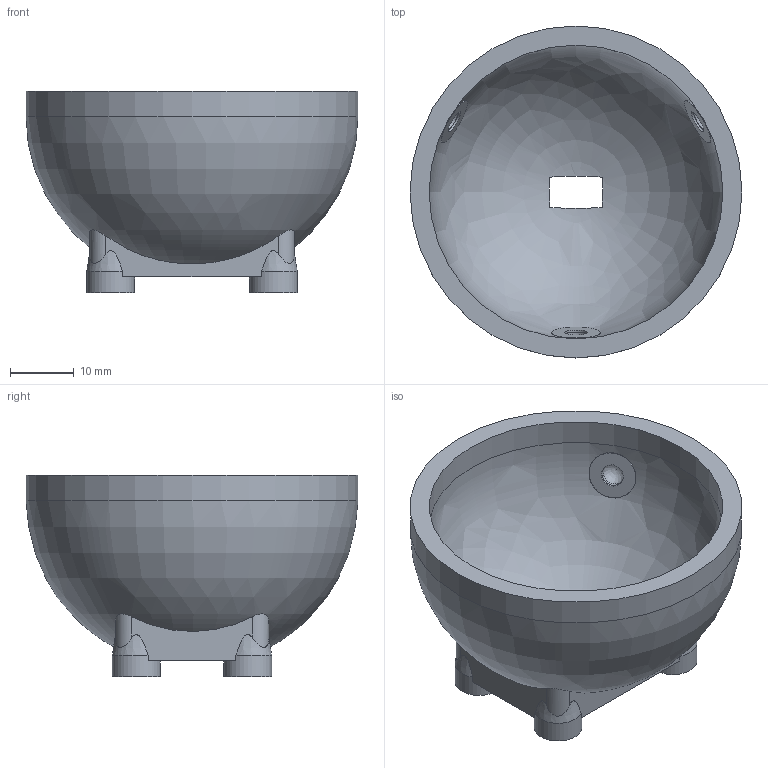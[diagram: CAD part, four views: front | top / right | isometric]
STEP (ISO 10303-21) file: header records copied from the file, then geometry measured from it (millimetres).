
FILE_DESCRIPTION(('Open CASCADE Model'),'2;1');
FILE_NAME('Open CASCADE Shape Model','2026-05-31T19:43:22',('Author'),( 'Open CASCADE'),'Open CASCADE STEP processor 7.6','Open CASCADE 7.6' ,'Unknown');
FILE_SCHEMA(('AP242_MANAGED_MODEL_BASED_3D_ENGINEERING_MIM_LF. {1 0 10303 442 1 1 4 }'));
Length unit declared in the file: millimetre
Products named in the file (1): Open CASCADE STEP translator 7.6 11
Bounding box: 52 x 52 x 31.6 mm (x, y, z)
Volume: 14584.5 mm3; surface area: 10268 mm2
Topology: 1 solids, 1 shells, 65 faces, 153 edges, 101 vertices
Faces by surface type: cylinder 27, plane 22, revolution 8, bspline 4, cone 4
Full cylindrical faces by diameter (mm): 3.5 x4, 3.57 x3, 3.572 x3, 7.5 x4, 7.57 x3, 46 x1, 52 x1
Entity records: 8617 total; most frequent: CARTESIAN_POINT 5610, DIRECTION 537, ORIENTED_EDGE 300, PCURVE 300, DEFINITIONAL_REPRESENTATION 300, LINE 251, VECTOR 251, EDGE_CURVE 150
